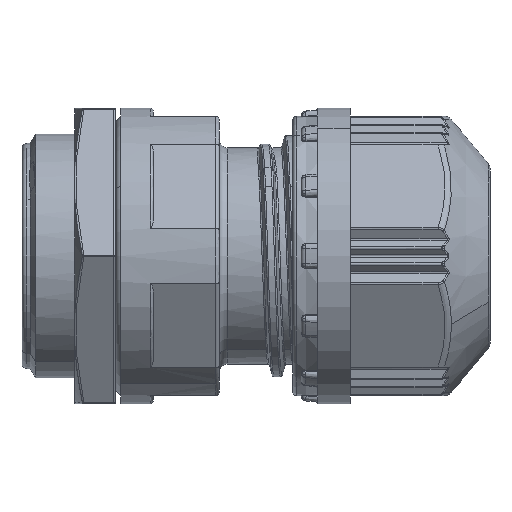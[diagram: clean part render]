
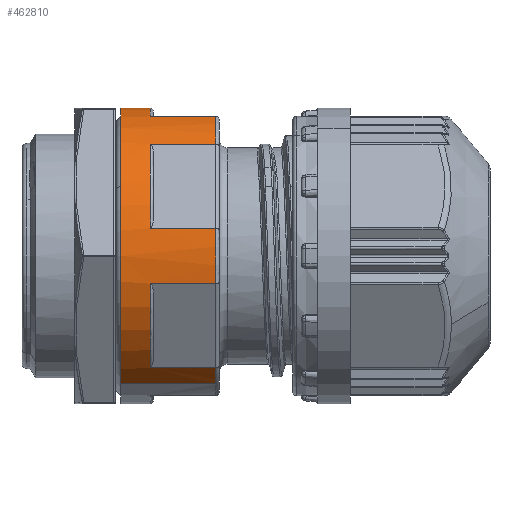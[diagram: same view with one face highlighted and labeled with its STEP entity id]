
A CAD part, front view. The second image highlights one B-rep face of the part: STEP entity #462810.
In plain terms, the highlighted cylindrical face has radius 9 mm (diameter 18 mm), a partial arc.
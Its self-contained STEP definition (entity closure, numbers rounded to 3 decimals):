
#68890=CARTESIAN_POINT('',(0.,0.,0.));
#68900=DIRECTION('',(0.,-1.,0.));
#68910=DIRECTION('',(1.,0.,0.));
#68920=AXIS2_PLACEMENT_3D('',#68890,#68900,#68910);
#68930=CIRCLE('',#68920,9.);
#68940=CARTESIAN_POINT('',(9.,0.,0.));
#68950=VERTEX_POINT('',#68940);
#68960=CARTESIAN_POINT('',(-9.,0.,0.));
#68970=VERTEX_POINT('',#68960);
#68980=EDGE_CURVE('',#68950,#68970,#68930,.T.);
#88460=CARTESIAN_POINT('',(5.882,-1.8,6.812));
#88470=VERTEX_POINT('',#88460);
#88850=CARTESIAN_POINT('',(8.84,-1.8,1.688));
#88860=VERTEX_POINT('',#88850);
#88890=CARTESIAN_POINT('',(8.84,0.,1.688));
#88900=DIRECTION('',(0.,-1.,0.));
#88910=VECTOR('',#88900,1.);
#88920=LINE('',#88890,#88910);
#88930=CARTESIAN_POINT('',(8.84,-5.8,
1.688));
#88940=VERTEX_POINT('',#88930);
#88950=EDGE_CURVE('',#88860,#88940,#88920,.T.);
#89010=CARTESIAN_POINT('',(5.882,-5.8,
6.812));
#89020=VERTEX_POINT('',#89010);
#89050=CARTESIAN_POINT('',(5.882,0.,6.812));
#89060=DIRECTION('',(0.,-1.,0.));
#89070=VECTOR('',#89060,1.);
#89080=LINE('',#89050,#89070);
#89090=EDGE_CURVE('',#88470,#89020,#89080,.T.);
#89690=CARTESIAN_POINT('',(-2.958,-1.8,8.5));
#89700=VERTEX_POINT('',#89690);
#90080=CARTESIAN_POINT('',(2.958,-1.8,8.5));
#90090=VERTEX_POINT('',#90080);
#90120=CARTESIAN_POINT('',(2.958,0.,8.5));
#90130=DIRECTION('',(0.,-1.,0.));
#90140=VECTOR('',#90130,1.);
#90150=LINE('',#90120,#90140);
#90160=CARTESIAN_POINT('',(2.958,-5.8,8.5));
#90170=VERTEX_POINT('',#90160);
#90180=EDGE_CURVE('',#90090,#90170,#90150,.T.);
#90240=CARTESIAN_POINT('',(-2.958,-5.8,8.5));
#90250=VERTEX_POINT('',#90240);
#90280=CARTESIAN_POINT('',(-2.958,0.,8.5));
#90290=DIRECTION('',(0.,-1.,0.));
#90300=VECTOR('',#90290,1.);
#90310=LINE('',#90280,#90300);
#90320=EDGE_CURVE('',#89700,#90250,#90310,.T.);
#90570=CARTESIAN_POINT('',(-5.882,-5.8,
6.812));
#90580=VERTEX_POINT('',#90570);
#90590=CARTESIAN_POINT('',(-8.84,-5.8,
1.688));
#90600=VERTEX_POINT('',#90590);
#90630=CARTESIAN_POINT('',(-8.84,0.,1.688));
#90640=DIRECTION('',(0.,-1.,0.));
#90650=VECTOR('',#90640,1.);
#90660=LINE('',#90630,#90650);
#90670=CARTESIAN_POINT('',(-8.84,-1.8,1.688));
#90680=VERTEX_POINT('',#90670);
#90690=EDGE_CURVE('',#90680,#90600,#90660,.T.);
#91420=CARTESIAN_POINT('',(-5.882,-1.8,6.812));
#91430=VERTEX_POINT('',#91420);
#91460=CARTESIAN_POINT('',(-5.882,0.,6.812));
#91470=DIRECTION('',(0.,-1.,0.));
#91480=VECTOR('',#91470,1.);
#91490=LINE('',#91460,#91480);
#91500=EDGE_CURVE('',#91430,#90580,#91490,.T.);
#103970=CARTESIAN_POINT('',(0.,-1.8,0.));
#103980=DIRECTION('',(0.,-1.,0.));
#103990=DIRECTION('',(1.,0.,0.));
#104000=AXIS2_PLACEMENT_3D('',#103970,#103980,#103990);
#104010=CIRCLE('',#104000,9.);
#104020=EDGE_CURVE('',#91430,#90680,#104010,.T.);
#106260=CARTESIAN_POINT('',(0.,-5.8,0.));
#106270=DIRECTION('',(0.,-1.,0.));
#106280=DIRECTION('',(1.,0.,0.));
#106290=AXIS2_PLACEMENT_3D('',#106260,#106270,#106280);
#106300=CIRCLE('',#106290,9.);
#106310=CARTESIAN_POINT('',(9.,-5.8,0.));
#106320=VERTEX_POINT('',#106310);
#106330=EDGE_CURVE('',#106320,#88940,#106300,.T.);
#112890=CARTESIAN_POINT('',(0.,-1.8,0.));
#112900=DIRECTION('',(0.,-1.,0.));
#112910=DIRECTION('',(1.,0.,0.));
#112920=AXIS2_PLACEMENT_3D('',#112890,#112900,#112910);
#112930=CIRCLE('',#112920,9.);
#112940=EDGE_CURVE('',#90090,#89700,#112930,.T.);
#114000=CARTESIAN_POINT('',(0.,-5.8,0.));
#114010=DIRECTION('',(0.,-1.,0.));
#114020=DIRECTION('',(1.,0.,0.));
#114030=AXIS2_PLACEMENT_3D('',#114000,#114010,#114020);
#114040=CIRCLE('',#114030,9.);
#114050=CARTESIAN_POINT('',(-9.,-5.8,0.));
#114060=VERTEX_POINT('',#114050);
#114090=EDGE_CURVE('',#90600,#114060,#114040,.T.);
#115980=CARTESIAN_POINT('',(0.,-5.8,0.));
#115990=DIRECTION('',(0.,-1.,0.));
#116000=DIRECTION('',(1.,0.,0.));
#116010=AXIS2_PLACEMENT_3D('',#115980,#115990,#116000);
#116020=CIRCLE('',#116010,9.);
#116030=EDGE_CURVE('',#90250,#90580,#116020,.T.);
#120000=CARTESIAN_POINT('',(0.,-5.8,0.));
#120010=DIRECTION('',(0.,-1.,0.));
#120020=DIRECTION('',(1.,0.,0.));
#120030=AXIS2_PLACEMENT_3D('',#120000,#120010,#120020);
#120040=CIRCLE('',#120030,9.);
#120050=EDGE_CURVE('',#89020,#90170,#120040,.T.);
#123200=CARTESIAN_POINT('',(0.,-1.8,0.));
#123210=DIRECTION('',(0.,-1.,0.));
#123220=DIRECTION('',(1.,0.,0.));
#123230=AXIS2_PLACEMENT_3D('',#123200,#123210,#123220);
#123240=CIRCLE('',#123230,9.);
#123250=EDGE_CURVE('',#88860,#88470,#123240,.T.);
#462480=CARTESIAN_POINT('',(0.,0.,0.));
#462490=DIRECTION('',(0.,-1.,0.));
#462500=DIRECTION('',(1.,0.,0.));
#462510=AXIS2_PLACEMENT_3D('',#462480,#462490,#462500);
#462520=CYLINDRICAL_SURFACE('',#462510,9.);
#462530=ORIENTED_EDGE('',*,*,#116030,.F.);
#462540=ORIENTED_EDGE('',*,*,#91500,.T.);
#462550=ORIENTED_EDGE('',*,*,#104020,.F.);
#462560=ORIENTED_EDGE('',*,*,#90690,.F.);
#462570=ORIENTED_EDGE('',*,*,#114090,.F.);
#462580=CARTESIAN_POINT('',(-9.,0.,0.));
#462590=DIRECTION('',(0.,-1.,0.));
#462600=VECTOR('',#462590,1.);
#462610=LINE('',#462580,#462600);
#462620=EDGE_CURVE('',#68970,#114060,#462610,.T.);
#462630=ORIENTED_EDGE('',*,*,#462620,.T.);
#462640=ORIENTED_EDGE('',*,*,#68980,.T.);
#462650=CARTESIAN_POINT('',(9.,0.,0.));
#462660=DIRECTION('',(0.,-1.,0.));
#462670=VECTOR('',#462660,1.);
#462680=LINE('',#462650,#462670);
#462690=EDGE_CURVE('',#68950,#106320,#462680,.T.);
#462700=ORIENTED_EDGE('',*,*,#462690,.F.);
#462710=ORIENTED_EDGE('',*,*,#106330,.F.);
#462720=ORIENTED_EDGE('',*,*,#88950,.T.);
#462730=ORIENTED_EDGE('',*,*,#123250,.F.);
#462740=ORIENTED_EDGE('',*,*,#89090,.F.);
#462750=ORIENTED_EDGE('',*,*,#120050,.F.);
#462760=ORIENTED_EDGE('',*,*,#90180,.T.);
#462770=ORIENTED_EDGE('',*,*,#112940,.F.);
#462780=ORIENTED_EDGE('',*,*,#90320,.F.);
#462790=EDGE_LOOP('',(#462780,#462770,#462760,#462750,#462740,#462730,
#462720,#462710,#462700,#462640,#462630,#462570,#462560,#462550,#462540,
#462530));
#462800=FACE_OUTER_BOUND('',#462790,.T.);
#462810=ADVANCED_FACE('',(#462800),#462520,.T.);
